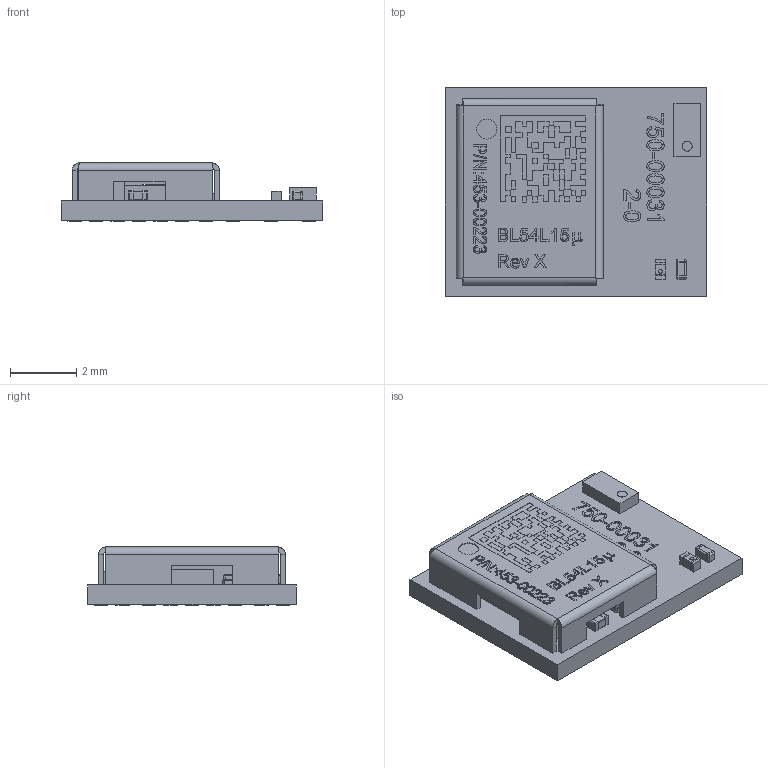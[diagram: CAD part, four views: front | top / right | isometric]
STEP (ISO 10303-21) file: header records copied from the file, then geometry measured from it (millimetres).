
FILE_DESCRIPTION (( 'STEP AP214' ), '1' );
FILE_NAME ('453-00223.STEP', '2026-05-25T09:03:12', ( '' ), ( '' ), 'SwSTEP 2.0', 'SolidWorks 2025', '' );
FILE_SCHEMA (( 'AUTOMOTIVE_DESIGN' ));
Length unit declared in the file: millimetre
Products named in the file (4): 750-00031-11118847_940-00072-Chip ANT; 453-00223; 110-00009_453-00223; 940-00072_laser
Assembly tree (3 placements, depth 3):
  453-00223
    940-00072_laser
      750-00031-11118847_940-00072-Chip ANT
      110-00009_453-00223
Bounding box: 7.9 x 6.3 x 1.76 mm (x, y, z)
Volume: 40 mm3; surface area: 253.6 mm2
Topology: 90 solids, 90 shells, 1603 faces, 3871 edges, 2523 vertices
Faces by surface type: plane 1178, bspline 317, cylinder 92, sphere 16
Entity records: 78592 total; most frequent: CARTESIAN_POINT 25346, ORIENTED_EDGE 7710, DIRECTION 6019, EDGE_CURVE 3855, LINE 3057, VECTOR 3057, VERTEX_POINT 2523, EDGE_LOOP 1694
